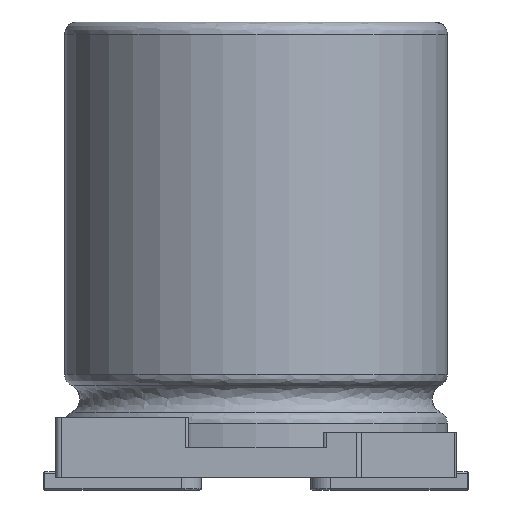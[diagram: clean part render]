
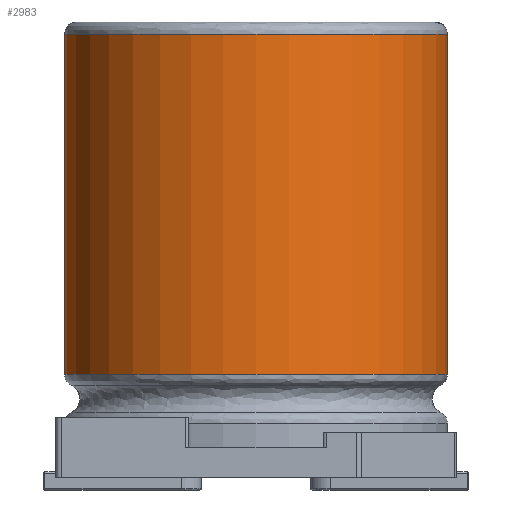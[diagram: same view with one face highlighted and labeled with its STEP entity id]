
A CAD part, front view. The second image highlights one B-rep face of the part: STEP entity #2983.
In plain terms, the highlighted cylindrical face has radius 3.15 mm (diameter 6.3 mm), a partial arc.
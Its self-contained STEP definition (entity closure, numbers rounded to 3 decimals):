
#2718 = VERTEX_POINT('',#2719);
#2719 = CARTESIAN_POINT('',(-3.15,0.,1.903));
#2727 = VERTEX_POINT('',#2728);
#2728 = CARTESIAN_POINT('',(3.15,0.,1.903));
#2763 = EDGE_CURVE('',#2718,#2727,#2764,.T.);
#2764 = CIRCLE('',#2765,3.15);
#2765 = AXIS2_PLACEMENT_3D('',#2766,#2767,#2768);
#2766 = CARTESIAN_POINT('',(0.,0.,
    1.903));
#2767 = DIRECTION('',(0.,0.,1.));
#2768 = DIRECTION('',(1.,0.,0.));
#2956 = EDGE_CURVE('',#2718,#2957,#2959,.T.);
#2957 = VERTEX_POINT('',#2958);
#2958 = CARTESIAN_POINT('',(-3.15,0.,7.5));
#2959 = LINE('',#2960,#2961);
#2960 = CARTESIAN_POINT('',(-3.15,0.,0.7));
#2961 = VECTOR('',#2962,1.);
#2962 = DIRECTION('',(0.,0.,1.));
#2965 = VERTEX_POINT('',#2966);
#2966 = CARTESIAN_POINT('',(3.15,0.,7.5));
#2973 = EDGE_CURVE('',#2727,#2965,#2974,.T.);
#2974 = LINE('',#2975,#2976);
#2975 = CARTESIAN_POINT('',(3.15,0.,0.7));
#2976 = VECTOR('',#2977,1.);
#2977 = DIRECTION('',(0.,0.,1.));
#2983 = ADVANCED_FACE('',(#2984),#2996,.T.);
#2984 = FACE_BOUND('',#2985,.T.);
#2985 = EDGE_LOOP('',(#2986,#2987,#2988,#2989));
#2986 = ORIENTED_EDGE('',*,*,#2956,.F.);
#2987 = ORIENTED_EDGE('',*,*,#2763,.T.);
#2988 = ORIENTED_EDGE('',*,*,#2973,.T.);
#2989 = ORIENTED_EDGE('',*,*,#2990,.T.);
#2990 = EDGE_CURVE('',#2965,#2957,#2991,.T.);
#2991 = CIRCLE('',#2992,3.15);
#2992 = AXIS2_PLACEMENT_3D('',#2993,#2994,#2995);
#2993 = CARTESIAN_POINT('',(0.,0.,7.5
    ));
#2994 = DIRECTION('',(0.,0.,-1.));
#2995 = DIRECTION('',(1.,0.,0.));
#2996 = CYLINDRICAL_SURFACE('',#2997,3.15);
#2997 = AXIS2_PLACEMENT_3D('',#2998,#2999,#3000);
#2998 = CARTESIAN_POINT('',(0.,0.,0.7
    ));
#2999 = DIRECTION('',(0.,0.,1.));
#3000 = DIRECTION('',(1.,0.,0.));
